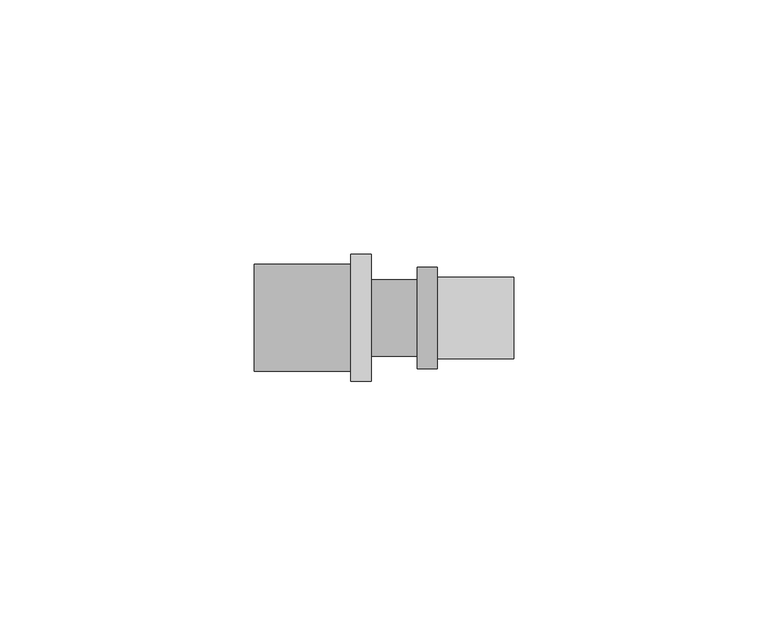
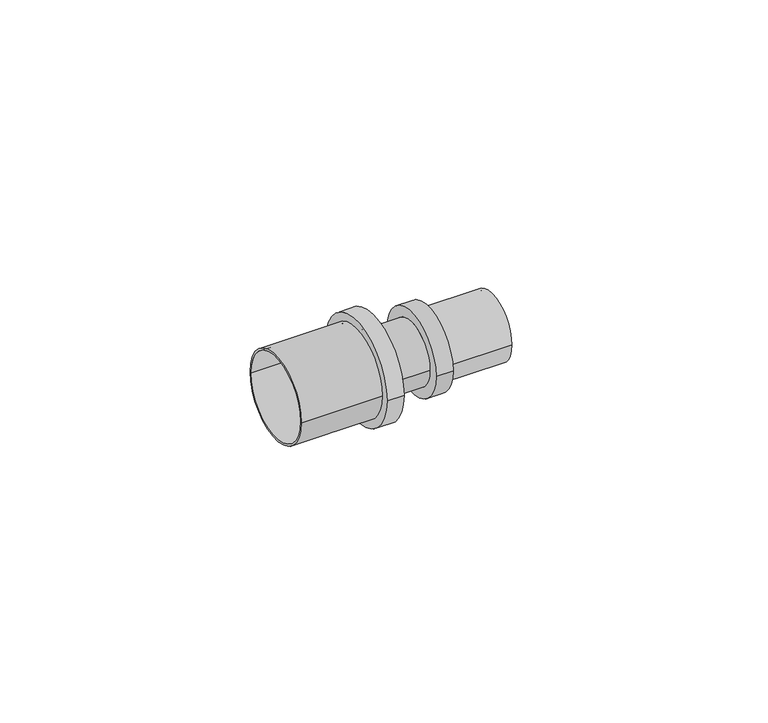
"""IFC4 building model written with IfcOpenShell, lengths in millimetres: pipe fitting geometry, БИР ПЕКС_НПР_Соединитель_Резьба_Наружная : Соединитель прямой с наружной резьбой."""

from ifc_helpers import new_model, si_unit, point, frame, origin, origin_2d, place, context, project, spatial, circle_curve, trimmed, segment, composite_curve, outline, extrude, source, transform, mapped, element, save


def pipe_fitting_7f24986b(model_context):
    return source(origin(), model_context, "Body", "SweptSolid", [
        extrude(outline(composite_curve([segment(trimmed(circle_curve(origin_2d(), 10.5), [point((-10.5, 0.0))], [point((10.5, 0.0))], False, "CARTESIAN"), True, "CONTINUOUS"), segment(trimmed(circle_curve(origin_2d(), 10.5), [point((10.5, 0.0))], [point((-10.5, 0.0))], False, "CARTESIAN"), True, "CONTINUOUS")], self_intersect=False), holes=[composite_curve([segment(trimmed(circle_curve(origin_2d(), 10.0), [point((-10.0, 0.0))], [point((10.0, 0.0))], True, "CARTESIAN"), True, "CONTINUOUS"), segment(trimmed(circle_curve(origin_2d(), 10.0), [point((10.0, 0.0))], [point((-10.0, 0.0))], True, "CARTESIAN"), True, "CONTINUOUS")], self_intersect=False)]), frame((-25.375, 0.0, 0.0), z_axis=(1.0, 0.0, 0.0), x_axis=(0.0, 1.0, 0.0)), (0.0, 0.0, 1.0), 19.0),
        extrude(outline(composite_curve([segment(trimmed(circle_curve(origin_2d(), 8.0), [point((-8.0, 0.0))], [point((8.0, 0.0))], False, "CARTESIAN"), True, "CONTINUOUS"), segment(trimmed(circle_curve(origin_2d(), 8.0), [point((8.0, 0.0))], [point((-8.0, 0.0))], False, "CARTESIAN"), True, "CONTINUOUS")], self_intersect=False), holes=[composite_curve([segment(trimmed(circle_curve(origin_2d(), 7.5), [point((-7.5, 0.0))], [point((7.5, 0.0))], True, "CARTESIAN"), True, "CONTINUOUS"), segment(trimmed(circle_curve(origin_2d(), 7.5), [point((7.5, 0.0))], [point((-7.5, 0.0))], True, "CARTESIAN"), True, "CONTINUOUS")], self_intersect=False)]), frame((10.625, 0.0, 0.0), z_axis=(1.0, 0.0, 0.0), x_axis=(0.0, 1.0, 0.0)), (0.0, 0.0, 1.0), 15.0),
        extrude(outline(composite_curve([segment(trimmed(circle_curve(origin_2d(), 7.5), [point((-7.5, 0.0))], [point((7.5, 0.0))], False, "CARTESIAN"), True, "CONTINUOUS"), segment(trimmed(circle_curve(origin_2d(), 7.5), [point((7.5, 0.0))], [point((-7.5, 0.0))], False, "CARTESIAN"), True, "CONTINUOUS")], self_intersect=False)), frame((-2.375, 0.0, 0.0), z_axis=(1.0, 0.0, 0.0), x_axis=(0.0, 1.0, 0.0)), (0.0, 0.0, 1.0), 9.0),
        extrude(outline(composite_curve([segment(trimmed(circle_curve(origin_2d(), 10.0), [point((-10.0, 0.0))], [point((10.0, 0.0))], False, "CARTESIAN"), True, "CONTINUOUS"), segment(trimmed(circle_curve(origin_2d(), 10.0), [point((10.0, 0.0))], [point((-10.0, 0.0))], False, "CARTESIAN"), True, "CONTINUOUS")], self_intersect=False), holes=[composite_curve([segment(trimmed(circle_curve(origin_2d(), 7.5), [point((-7.5, 0.0))], [point((7.5, 0.0))], True, "CARTESIAN"), True, "CONTINUOUS"), segment(trimmed(circle_curve(origin_2d(), 7.5), [point((7.5, 0.0))], [point((-7.5, 0.0))], True, "CARTESIAN"), True, "CONTINUOUS")], self_intersect=False)]), frame((6.625, 0.0, 0.0), z_axis=(1.0, 0.0, 0.0), x_axis=(0.0, 1.0, 0.0)), (0.0, 0.0, 1.0), 4.0),
        extrude(outline(composite_curve([segment(trimmed(circle_curve(origin_2d(), 12.5), [point((-12.5, 0.0))], [point((12.5, 0.0))], False, "CARTESIAN"), True, "CONTINUOUS"), segment(trimmed(circle_curve(origin_2d(), 12.5), [point((12.5, 0.0))], [point((-12.5, 0.0))], False, "CARTESIAN"), True, "CONTINUOUS")], self_intersect=False), holes=[composite_curve([segment(trimmed(circle_curve(origin_2d(), 7.5), [point((-7.5, 0.0))], [point((7.5, 0.0))], True, "CARTESIAN"), True, "CONTINUOUS"), segment(trimmed(circle_curve(origin_2d(), 7.5), [point((7.5, 0.0))], [point((-7.5, 0.0))], True, "CARTESIAN"), True, "CONTINUOUS")], self_intersect=False)]), frame((-6.375, 0.0, 0.0), z_axis=(1.0, 0.0, 0.0), x_axis=(0.0, 1.0, 0.0)), (0.0, 0.0, 1.0), 4.0),
    ])


if __name__ == "__main__":
    model = new_model("IFC4")
    model_context = context("Model", 3, world=origin())
    ifc_project = project(units=[si_unit("LENGTHUNIT", "METRE", prefix="MILLI")], contexts=[model_context])
    site = spatial("IfcSite", under=ifc_project)
    building = spatial("IfcBuilding", under=site)
    placement = place(None, origin())
    pipe_fitting_shape = pipe_fitting_7f24986b(model_context)
    element("IfcPipeFitting", 1, ObjectType="БИР ПЕКС_НПР_Соединитель_Резьба_Наружная : Соединитель прямой с наружной резьбой", at=placement, inside=building, context=model_context, shape_type="MappedRepresentation", body=[
        mapped(pipe_fitting_shape, transform((0.0, 0.0, 0.0), x_axis=(1.0, 0.0, 0.0), y_axis=(0.0, 1.0, 0.0), z_axis=(0.0, 0.0, 1.0))),
    ])
    save(model, "model.ifc")
